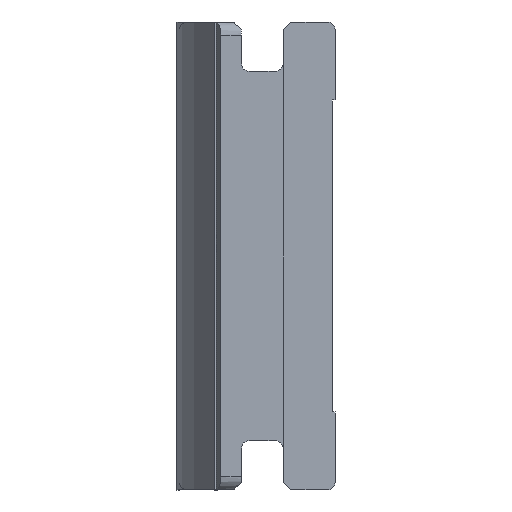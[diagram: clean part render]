
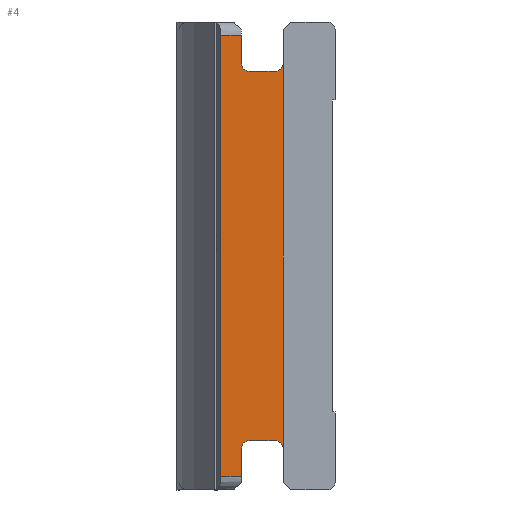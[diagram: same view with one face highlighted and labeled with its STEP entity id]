
A CAD part, left-side view. The second image highlights one B-rep face of the part: STEP entity #4.
In plain terms, the highlighted planar face has unit normal (-1, 0, 0).
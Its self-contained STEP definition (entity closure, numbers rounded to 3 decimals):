
#4 = ADVANCED_FACE ( 'NONE', ( #1393 ), #251, .F. ) ;
#18 = CARTESIAN_POINT ( 'NONE',  ( 10., 2.2, 7.4 ) ) ;
#26 = AXIS2_PLACEMENT_3D ( 'NONE', #231, #678, #1099 ) ;
#39 = ORIENTED_EDGE ( 'NONE', *, *, #239, .T. ) ;
#60 = CIRCLE ( 'NONE', #1453, 0.3 ) ;
#69 = EDGE_CURVE ( 'NONE', #1427, #147, #1844, .T. ) ;
#117 = CARTESIAN_POINT ( 'NONE',  ( 10., 3.5, -8.5 ) ) ;
#144 = VECTOR ( 'NONE', #1671, 1000. ) ;
#147 = VERTEX_POINT ( 'NONE', #117 ) ;
#170 = EDGE_CURVE ( 'NONE', #1152, #433, #1839, .T. ) ;
#205 = LINE ( 'NONE', #942, #1187 ) ;
#231 = CARTESIAN_POINT ( 'NONE',  ( 10., 1.9, -29.536 ) ) ;
#232 = CARTESIAN_POINT ( 'NONE',  ( 10., 3.2, -7.4 ) ) ;
#239 = EDGE_CURVE ( 'NONE', #1058, #1464, #1367, .T. ) ;
#241 = CARTESIAN_POINT ( 'NONE',  ( 10., 1.9, -8.5 ) ) ;
#244 = LINE ( 'NONE', #522, #584 ) ;
#251 = PLANE ( 'NONE',  #26 ) ;
#256 = VERTEX_POINT ( 'NONE', #1810 ) ;
#292 = CARTESIAN_POINT ( 'NONE',  ( 10., 2.2, -7.4 ) ) ;
#297 = EDGE_CURVE ( 'NONE', #1778, #1300, #244, .T. ) ;
#318 = ORIENTED_EDGE ( 'NONE', *, *, #170, .F. ) ;
#329 = DIRECTION ( 'NONE',  ( 0., 0., -1. ) ) ;
#382 = CARTESIAN_POINT ( 'NONE',  ( 10., 1.9, 7.4 ) ) ;
#394 = DIRECTION ( 'NONE',  ( -1., 0., 0. ) ) ;
#422 = CARTESIAN_POINT ( 'NONE',  ( 10., 3.2, -7.1 ) ) ;
#425 = VERTEX_POINT ( 'NONE', #938 ) ;
#433 = VERTEX_POINT ( 'NONE', #1527 ) ;
#446 = VECTOR ( 'NONE', #1374, 1000. ) ;
#449 = ORIENTED_EDGE ( 'NONE', *, *, #69, .T. ) ;
#499 = CIRCLE ( 'NONE', #1277, 0.3 ) ;
#501 = CIRCLE ( 'NONE', #1401, 0.3 ) ;
#522 = CARTESIAN_POINT ( 'NONE',  ( 10., 3.2, -7.1 ) ) ;
#546 = CARTESIAN_POINT ( 'NONE',  ( 10., 4.3, -8.5 ) ) ;
#568 = DIRECTION ( 'NONE',  ( 0., 0., -1. ) ) ;
#577 = CARTESIAN_POINT ( 'NONE',  ( 10., 2.2, -7.1 ) ) ;
#578 = ORIENTED_EDGE ( 'NONE', *, *, #1459, .F. ) ;
#584 = VECTOR ( 'NONE', #1673, 1000. ) ;
#589 = DIRECTION ( 'NONE',  ( 0., 0., -1. ) ) ;
#607 = ORIENTED_EDGE ( 'NONE', *, *, #1059, .F. ) ;
#640 = ORIENTED_EDGE ( 'NONE', *, *, #1781, .F. ) ;
#672 = CARTESIAN_POINT ( 'NONE',  ( 10., 1.9, 8.5 ) ) ;
#678 = DIRECTION ( 'NONE',  ( 1., 0., 0. ) ) ;
#682 = DIRECTION ( 'NONE',  ( 0., 1., 0. ) ) ;
#684 = EDGE_CURVE ( 'NONE', #1622, #256, #205, .T. ) ;
#701 = LINE ( 'NONE', #932, #1638 ) ;
#771 = EDGE_CURVE ( 'NONE', #425, #1152, #499, .T. ) ;
#784 = DIRECTION ( 'NONE',  ( -1., 0., 0. ) ) ;
#806 = DIRECTION ( 'NONE',  ( 0., 0., -1. ) ) ;
#908 = ORIENTED_EDGE ( 'NONE', *, *, #297, .F. ) ;
#912 = ORIENTED_EDGE ( 'NONE', *, *, #1412, .F. ) ;
#932 = CARTESIAN_POINT ( 'NONE',  ( 10., 3.5, 8.7 ) ) ;
#938 = CARTESIAN_POINT ( 'NONE',  ( 10., 3.5, 7.4 ) ) ;
#942 = CARTESIAN_POINT ( 'NONE',  ( 10., 1.9, -29.536 ) ) ;
#951 = DIRECTION ( 'NONE',  ( 0., 0., -1. ) ) ;
#995 = DIRECTION ( 'NONE',  ( 0., -1., 0. ) ) ;
#1029 = ORIENTED_EDGE ( 'NONE', *, *, #1584, .F. ) ;
#1030 = CARTESIAN_POINT ( 'NONE',  ( 10., 3.2, 7.4 ) ) ;
#1045 = CARTESIAN_POINT ( 'NONE',  ( 10., 3.2, 7.1 ) ) ;
#1048 = VECTOR ( 'NONE', #1835, 1000. ) ;
#1058 = VERTEX_POINT ( 'NONE', #1821 ) ;
#1059 = EDGE_CURVE ( 'NONE', #1427, #1464, #1379, .T. ) ;
#1099 = DIRECTION ( 'NONE',  ( 0., 0., -1. ) ) ;
#1152 = VERTEX_POINT ( 'NONE', #1045 ) ;
#1165 = DIRECTION ( 'NONE',  ( -1., 0., 0. ) ) ;
#1181 = ORIENTED_EDGE ( 'NONE', *, *, #684, .F. ) ;
#1187 = VECTOR ( 'NONE', #1657, 1000. ) ;
#1213 = VECTOR ( 'NONE', #995, 1000. ) ;
#1222 = LINE ( 'NONE', #1534, #1048 ) ;
#1233 = AXIS2_PLACEMENT_3D ( 'NONE', #292, #1729, #568 ) ;
#1277 = AXIS2_PLACEMENT_3D ( 'NONE', #1030, #784, #329 ) ;
#1300 = VERTEX_POINT ( 'NONE', #422 ) ;
#1351 = CARTESIAN_POINT ( 'NONE',  ( 10., 4.3, -29.536 ) ) ;
#1364 = ORIENTED_EDGE ( 'NONE', *, *, #1426, .F. ) ;
#1367 = LINE ( 'NONE', #672, #1798 ) ;
#1374 = DIRECTION ( 'NONE',  ( 0., -1., 0. ) ) ;
#1379 = LINE ( 'NONE', #1351, #144 ) ;
#1384 = CARTESIAN_POINT ( 'NONE',  ( 10., 4.3, 8.5 ) ) ;
#1393 = FACE_OUTER_BOUND ( 'NONE', #1703, .T. ) ;
#1401 = AXIS2_PLACEMENT_3D ( 'NONE', #232, #394, #806 ) ;
#1412 = EDGE_CURVE ( 'NONE', #1300, #1612, #501, .T. ) ;
#1426 = EDGE_CURVE ( 'NONE', #1612, #147, #1222, .T. ) ;
#1427 = VERTEX_POINT ( 'NONE', #546 ) ;
#1453 = AXIS2_PLACEMENT_3D ( 'NONE', #18, #1165, #589 ) ;
#1459 = EDGE_CURVE ( 'NONE', #1058, #425, #701, .T. ) ;
#1464 = VERTEX_POINT ( 'NONE', #1384 ) ;
#1527 = CARTESIAN_POINT ( 'NONE',  ( 10., 2.2, 7.1 ) ) ;
#1534 = CARTESIAN_POINT ( 'NONE',  ( 10., 3.5, -8.7 ) ) ;
#1578 = CARTESIAN_POINT ( 'NONE',  ( 10., 3.2, 7.1 ) ) ;
#1584 = EDGE_CURVE ( 'NONE', #433, #1622, #60, .T. ) ;
#1604 = ORIENTED_EDGE ( 'NONE', *, *, #771, .F. ) ;
#1612 = VERTEX_POINT ( 'NONE', #1785 ) ;
#1622 = VERTEX_POINT ( 'NONE', #382 ) ;
#1636 = CIRCLE ( 'NONE', #1233, 0.3 ) ;
#1638 = VECTOR ( 'NONE', #951, 1000. ) ;
#1657 = DIRECTION ( 'NONE',  ( 0., 0., -1. ) ) ;
#1671 = DIRECTION ( 'NONE',  ( 0., 0., 1. ) ) ;
#1673 = DIRECTION ( 'NONE',  ( 0., 1., 0. ) ) ;
#1703 = EDGE_LOOP ( 'NONE', ( #578, #39, #607, #449, #1364, #912, #908, #640, #1181, #1029, #318, #1604 ) ) ;
#1729 = DIRECTION ( 'NONE',  ( -1., 0., 0. ) ) ;
#1778 = VERTEX_POINT ( 'NONE', #577 ) ;
#1781 = EDGE_CURVE ( 'NONE', #256, #1778, #1636, .T. ) ;
#1785 = CARTESIAN_POINT ( 'NONE',  ( 10., 3.5, -7.4 ) ) ;
#1798 = VECTOR ( 'NONE', #682, 1000. ) ;
#1810 = CARTESIAN_POINT ( 'NONE',  ( 10., 1.9, -7.4 ) ) ;
#1821 = CARTESIAN_POINT ( 'NONE',  ( 10., 3.5, 8.5 ) ) ;
#1835 = DIRECTION ( 'NONE',  ( 0., 0., -1. ) ) ;
#1839 = LINE ( 'NONE', #1578, #1213 ) ;
#1844 = LINE ( 'NONE', #241, #446 ) ;
